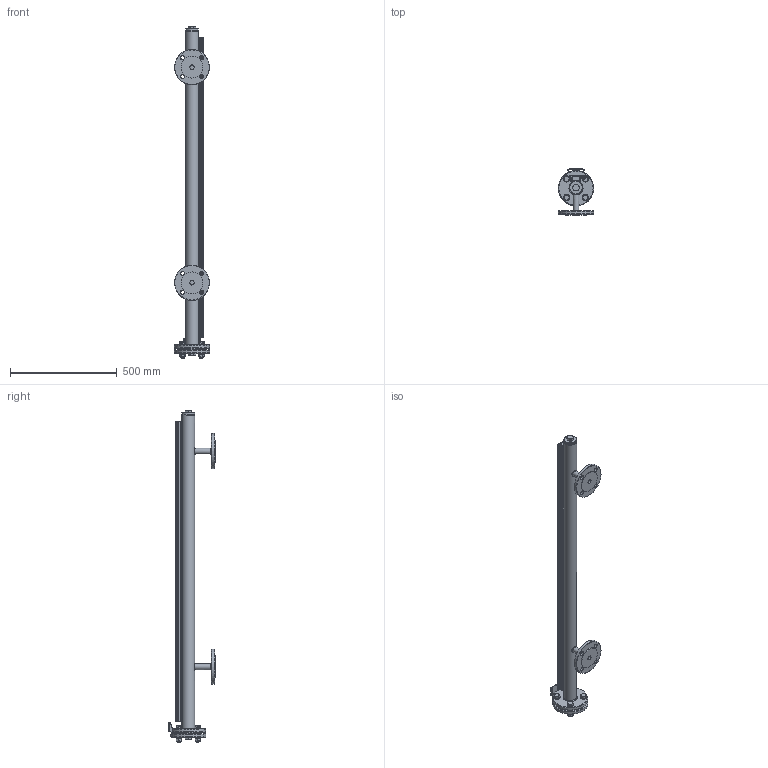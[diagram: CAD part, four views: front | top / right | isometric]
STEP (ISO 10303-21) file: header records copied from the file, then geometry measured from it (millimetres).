
FILE_DESCRIPTION(/* description */ (''),/* implementation_level */ '2;1');
FILE_NAME(/* name */ 'I:\Raj\3D\készülék rajzok\Összeállított készülékek\ML\ML_E_1.stp',/* time_stamp */ '2015-10-21T14:42:46+02:00',/* author */ ('aantal'),/* organization */ (''),/* preprocessor_version */ 'ST-DEVELOPER v15.6',/* originating_system */ 'Autodesk Inventor 2015',/* authorisation */ '');
FILE_SCHEMA (('AUTOMOTIVE_DESIGN { 1 0 10303 214 3 1 1 }'));
Length unit declared in the file: millimetre
Products named in the file (14): Cső 1E; DN50PN40; tábla1; ISO 4017 - M20 x 40ISO; ISO 4017 - M16 x 65ISO; ISO 7089 - 16 - 140 HV(1); ISO 4032 - M16ISO; D50 PN40 csav; kijelző; kijelzővégzáró; ISO 7045 - M3 x 5 - 4.8 - ZISO; üveg; mérőkijelző; ML_E_1
Bounding box: 165 x 219.5 x 1554.5 mm (x, y, z)
Volume: 3378269.3 mm3; surface area: 1575934.5 mm2
Topology: 33 solids, 33 shells, 943 faces, 2323 edges, 1495 vertices
Faces by surface type: plane 438, cone 227, cylinder 221, torus 45, sphere 10, bspline 2
Full cylindrical faces by diameter (mm): 2.729 x8, 2.9 x4, 3 x8, 13.835 x4, 16 x4, 17 x8, 18 x16, 20 x3, 20.5 x2, 21 x1, 22.49 x4, 26.9 x2, 28.19 x2, 30 x8, 54.5 x1, 60 x2, 61 x1, 102 x4, 165 x4
Entity records: 13961 total; most frequent: CARTESIAN_POINT 3016, DIRECTION 2294, ORIENTED_EDGE 2042, EDGE_CURVE 1021, AXIS2_PLACEMENT_3D 881, VERTEX_POINT 723, EDGE_LOOP 626, LINE 532
